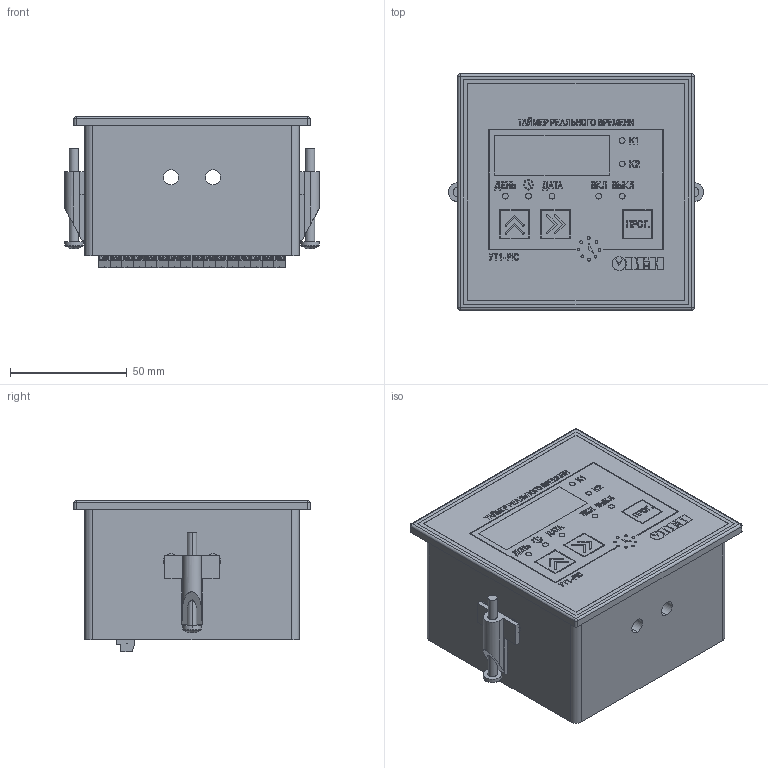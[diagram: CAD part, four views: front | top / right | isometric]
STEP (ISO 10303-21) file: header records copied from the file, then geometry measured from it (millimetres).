
FILE_DESCRIPTION (( 'STEP AP214' ), '1' );
FILE_NAME ('3D Ìîäåëü ÓÒ1-Ù1.STEP', '2015-09-30T07:22:33', ( '' ), ( '' ), 'SwSTEP 2.0', 'SolidWorks 2013', '' );
FILE_SCHEMA (( 'AUTOMOTIVE_DESIGN' ));
Length unit declared in the file: millimetre
Products named in the file (7): Êîðïóñ Ù1 (îäíîðÿä); 3D Ìîäåëü ÓÒ1-Ù1; Ïàíåëü ëèöåâàÿ ÓÒ1-Ù1; Êëåììà íèçêàÿ_11õ8õ5ìì; pan cross head_am_B18.6.7M - M4 x 0.7 x 40 Type I Cross Recessed PHMS --40N; 栺闀闉 睯艜鍒鍣; Óïëîòíèòåëü Ù1
Assembly tree (23 placements, depth 2):
  3D Ìîäåëü ÓÒ1-Ù1
    Êîðïóñ Ù1 (îäíîðÿä)
    Óïëîòíèòåëü Ù1
    栺闀闉 睯艜鍒鍣  x2
    pan cross head_am_B18.6.7M - M4 x 0.7 x 40 Type I Cross Recessed PHMS --40N  x2
    Êëåììà íèçêàÿ_11õ8õ5ìì  x16
    Ïàíåëü ëèöåâàÿ ÓÒ1-Ù1
Bounding box: 109 x 101 x 64.7 mm (x, y, z)
Volume: 505871 mm3; surface area: 82727.2 mm2
Topology: 23 solids, 23 shells, 1850 faces, 4715 edges, 3106 vertices
Faces by surface type: plane 1369, bspline 282, cylinder 187, sphere 8, torus 4
Entity records: 48998 total; most frequent: CARTESIAN_POINT 9943, ORIENTED_EDGE 6060, DIRECTION 4430, EDGE_CURVE 3030, LINE 2324, VECTOR 2324, VERTEX_POINT 2010, EDGE_LOOP 1316
